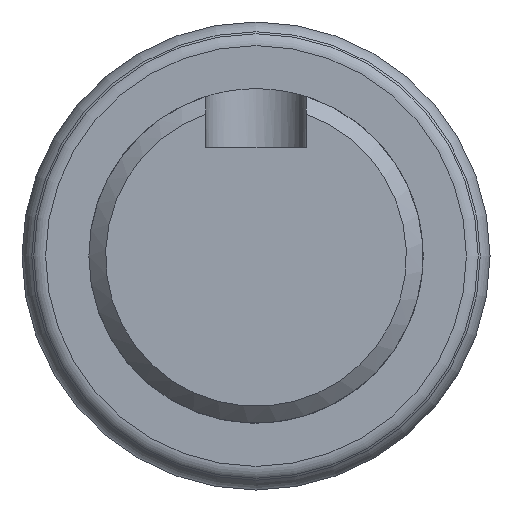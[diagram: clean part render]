
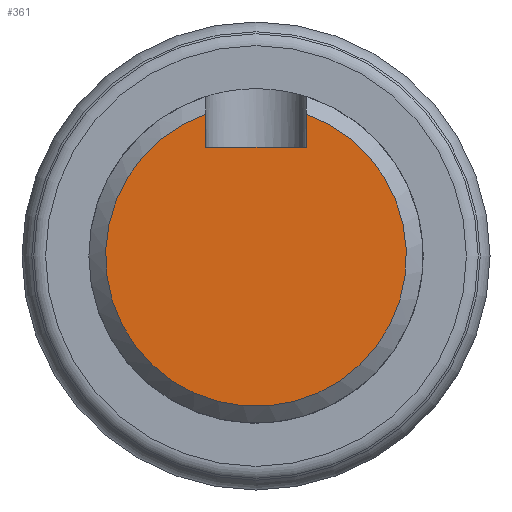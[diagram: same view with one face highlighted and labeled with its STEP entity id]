
A CAD part, left-side view. The second image highlights one B-rep face of the part: STEP entity #361.
In plain terms, the highlighted planar face has unit normal (-1, 0, 0).
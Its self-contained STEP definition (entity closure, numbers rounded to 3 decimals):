
#18=LINE($,#610,#27);
#20=LINE($,#615,#29);
#23=LINE($,#623,#32);
#27=VECTOR($,#473,1.985);
#29=VECTOR($,#477,1.985);
#32=VECTOR($,#482,6.);
#42=PLANE($,#414);
#103=FACE_OUTER_BOUND($,#148,.T.);
#148=EDGE_LOOP($,(#317,#318,#319,#320));
#179=CIRCLE($,#413,9.);
#200=VERTEX_POINT($,#605);
#201=VERTEX_POINT($,#609);
#202=VERTEX_POINT($,#613);
#203=VERTEX_POINT($,#614);
#234=EDGE_CURVE($,#201,#200,#18,.T.);
#236=EDGE_CURVE($,#202,#203,#20,.T.);
#240=EDGE_CURVE($,#203,#201,#23,.T.);
#250=EDGE_CURVE($,#202,#200,#179,.T.);
#317=ORIENTED_EDGE($,*,*,#234,.T.);
#318=ORIENTED_EDGE($,*,*,#250,.F.);
#319=ORIENTED_EDGE($,*,*,#236,.T.);
#320=ORIENTED_EDGE($,*,*,#240,.T.);
#361=ADVANCED_FACE($,(#103),#42,.T.);
#413=AXIS2_PLACEMENT_3D($,#651,#521,#522);
#414=AXIS2_PLACEMENT_3D($,#652,#523,#524);
#473=DIRECTION($,(0.,0.,1.));
#477=DIRECTION($,(0.,0.,-1.));
#482=DIRECTION($,(0.,1.,0.));
#521=DIRECTION('center_axis',(1.,0.,0.));
#522=DIRECTION('ref_axis',(0.,-1.,0.));
#523=DIRECTION('center_axis',(-1.,0.,0.));
#524=DIRECTION('ref_axis',(0.,0.,1.));
#605=CARTESIAN_POINT('',(0.,3.,8.485));
#609=CARTESIAN_POINT('',(0.,3.,6.5));
#610=CARTESIAN_POINT($,(0.,3.,5.));
#613=CARTESIAN_POINT('',(0.,-3.,8.485));
#614=CARTESIAN_POINT('',(0.,-3.,6.5));
#615=CARTESIAN_POINT($,(0.,-3.,5.));
#623=CARTESIAN_POINT($,(0.,5.,6.5));
#651=CARTESIAN_POINT('Origin',(0.,0.,0.));
#652=CARTESIAN_POINT('Origin',(0.,10.,0.));
